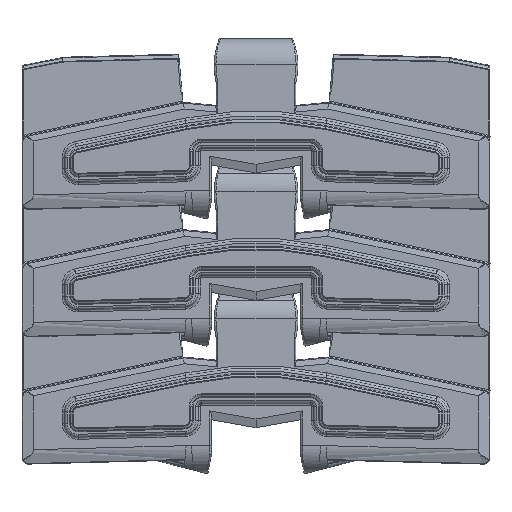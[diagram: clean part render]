
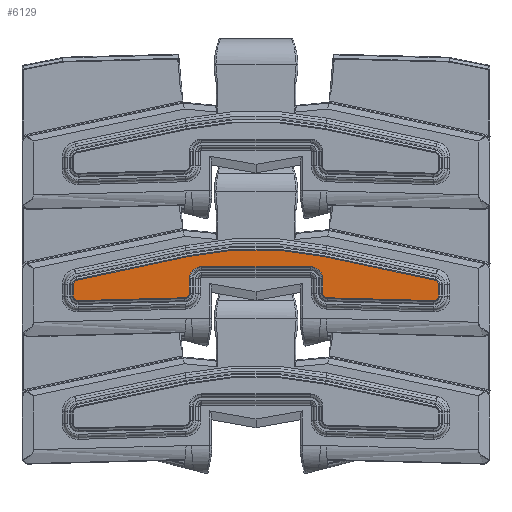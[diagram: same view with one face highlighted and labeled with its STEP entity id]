
A CAD part, top view. The second image highlights one B-rep face of the part: STEP entity #6129.
In plain terms, the highlighted planar face has unit normal (0, 0, 1).
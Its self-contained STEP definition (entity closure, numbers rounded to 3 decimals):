
#6129=ADVANCED_FACE('',(#17127),#17128,.T.);
#7945=EDGE_CURVE('',#20003,#20004,#20005,.T.);
#8293=EDGE_CURVE('',#19239,#20508,#20509,.F.);
#8407=EDGE_CURVE('',#20677,#20678,#20679,.F.);
#8681=EDGE_CURVE('',#21069,#21070,#21071,.T.);
#9091=EDGE_CURVE('',#21636,#20677,#21637,.T.);
#9209=EDGE_CURVE('',#21799,#21800,#21801,.F.);
#9369=EDGE_CURVE('',#21070,#21636,#22014,.F.);
#9533=EDGE_CURVE('',#21708,#19690,#22235,.T.);
#9671=EDGE_CURVE('',#20004,#21708,#22418,.F.);
#10061=EDGE_CURVE('',#22929,#21069,#22930,.F.);
#10915=EDGE_CURVE('',#20508,#24012,#24013,.F.);
#12671=EDGE_CURVE('',#20678,#21799,#26138,.T.);
#12741=EDGE_CURVE('',#21800,#19239,#26215,.F.);
#12891=EDGE_CURVE('',#22725,#19047,#26393,.F.);
#13909=EDGE_CURVE('',#24012,#20003,#27594,.F.);
#14251=EDGE_CURVE('',#27993,#22725,#27994,.T.);
#14333=EDGE_CURVE('',#19690,#27993,#28085,.T.);
#14817=EDGE_CURVE('',#19047,#22929,#28644,.T.);
#17127=FACE_OUTER_BOUND('',#34534,.T.);
#17128=PLANE('',#34535);
#19047=VERTEX_POINT('',#40332);
#19239=VERTEX_POINT('',#40828);
#19690=VERTEX_POINT('',#42352);
#20003=VERTEX_POINT('',#43655);
#20004=VERTEX_POINT('',#43656);
#20005=CIRCLE('',#43657,1.366);
#20508=VERTEX_POINT('',#45718);
#20509=LINE('',#45719,#45720);
#20677=VERTEX_POINT('',#46389);
#20678=VERTEX_POINT('',#46390);
#20679=LINE('',#46391,#46392);
#21069=VERTEX_POINT('',#47902);
#21070=VERTEX_POINT('',#47903);
#21071=CIRCLE('',#47904,1.366);
#21636=VERTEX_POINT('',#49843);
#21637=CIRCLE('',#49844,1.366);
#21708=VERTEX_POINT('',#50100);
#21799=VERTEX_POINT('',#50457);
#21800=VERTEX_POINT('',#50458);
#21801=LINE('',#50459,#50460);
#22014=LINE('',#51235,#51236);
#22235=CIRCLE('',#51957,1.366);
#22418=LINE('',#52708,#52709);
#22725=VERTEX_POINT('',#54413);
#22929=VERTEX_POINT('',#55171);
#22930=LINE('',#55172,#55173);
#24012=VERTEX_POINT('',#59143);
#24013=CIRCLE('',#59144,3.634);
#26138=CIRCLE('',#67962,1.366);
#26215=CIRCLE('',#68254,3.634);
#26393=LINE('',#69000,#69001);
#27594=LINE('',#73955,#73956);
#27993=VERTEX_POINT('',#75527);
#27994=CIRCLE('',#75528,1.366);
#28085=LINE('',#75875,#75876);
#28644=CIRCLE('',#78424,98.866);
#34534=EDGE_LOOP('',(#82230,#82231,#82232,#82233,#82234,#82235,#82236,#82237,#82238,#82239,#82240,#82241,#82242,#82243,#82244,#82245,#82246,#82247));
#34535=AXIS2_PLACEMENT_3D('',#82248,#82249,#82250);
#40332=CARTESIAN_POINT('',(20.543,19.13,11.3));
#40828=CARTESIAN_POINT('',(-16.303,16.175,11.3));
#42352=CARTESIAN_POINT('',(54.616,7.356,11.3));
#43655=CARTESIAN_POINT('',(19.937,8.192,11.3));
#43656=CARTESIAN_POINT('',(21.268,6.827,11.3));
#43657=AXIS2_PLACEMENT_3D('',#84514,#84515,#84516);
#45718=CARTESIAN_POINT('',(16.303,16.175,11.3));
#45719=CARTESIAN_POINT('',(0.,16.175,11.3));
#45720=VECTOR('',#84916,1.0);
#46389=CARTESIAN_POINT('',(-53.214,5.99,11.3));
#46390=CARTESIAN_POINT('',(-21.268,6.827,11.3));
#46391=CARTESIAN_POINT('',(0.,7.384,11.3));
#46392=VECTOR('',#85033,1.0);
#47902=CARTESIAN_POINT('',(-53.534,12.122,11.3));
#47903=CARTESIAN_POINT('',(-54.616,10.786,11.3));
#47904=AXIS2_PLACEMENT_3D('',#85315,#85316,#85317);
#49843=CARTESIAN_POINT('',(-54.616,7.356,11.3));
#49844=AXIS2_PLACEMENT_3D('',#85849,#85850,#85851);
#50100=CARTESIAN_POINT('',(53.214,5.99,11.3));
#50457=CARTESIAN_POINT('',(-19.937,8.192,11.3));
#50458=CARTESIAN_POINT('',(-19.937,12.541,11.3));
#50459=CARTESIAN_POINT('',(-19.937,13.639,11.3));
#50460=VECTOR('',#85983,1.0);
#51235=CARTESIAN_POINT('',(-54.616,13.639,11.3));
#51236=VECTOR('',#86191,1.0);
#51957=AXIS2_PLACEMENT_3D('',#86451,#86452,#86453);
#52708=CARTESIAN_POINT('',(0.,7.384,11.3));
#52709=VECTOR('',#86628,1.0);
#54413=CARTESIAN_POINT('',(53.534,12.122,11.3));
#55171=CARTESIAN_POINT('',(-20.543,19.13,11.3));
#55172=CARTESIAN_POINT('',(-35.874,15.874,11.3));
#55173=VECTOR('',#87183,1.0);
#59143=CARTESIAN_POINT('',(19.937,12.541,11.3));
#59144=AXIS2_PLACEMENT_3D('',#88341,#88342,#88343);
#67962=AXIS2_PLACEMENT_3D('',#90544,#90545,#90546);
#68254=AXIS2_PLACEMENT_3D('',#90589,#90590,#90591);
#69000=CARTESIAN_POINT('',(35.874,15.874,11.3));
#69001=VECTOR('',#90794,1.0);
#73955=CARTESIAN_POINT('',(19.937,13.639,11.3));
#73956=VECTOR('',#92080,1.0);
#75527=CARTESIAN_POINT('',(54.616,10.786,11.3));
#75528=AXIS2_PLACEMENT_3D('',#92543,#92544,#92545);
#75875=CARTESIAN_POINT('',(54.616,13.639,11.3));
#75876=VECTOR('',#92631,1.0);
#78424=AXIS2_PLACEMENT_3D('',#93276,#93277,#93278);
#82230=ORIENTED_EDGE('',*,*,#8407,.T.);
#82231=ORIENTED_EDGE('',*,*,#12671,.T.);
#82232=ORIENTED_EDGE('',*,*,#9209,.T.);
#82233=ORIENTED_EDGE('',*,*,#12741,.T.);
#82234=ORIENTED_EDGE('',*,*,#8293,.T.);
#82235=ORIENTED_EDGE('',*,*,#10915,.T.);
#82236=ORIENTED_EDGE('',*,*,#13909,.T.);
#82237=ORIENTED_EDGE('',*,*,#7945,.T.);
#82238=ORIENTED_EDGE('',*,*,#9671,.T.);
#82239=ORIENTED_EDGE('',*,*,#9533,.T.);
#82240=ORIENTED_EDGE('',*,*,#14333,.T.);
#82241=ORIENTED_EDGE('',*,*,#14251,.T.);
#82242=ORIENTED_EDGE('',*,*,#12891,.T.);
#82243=ORIENTED_EDGE('',*,*,#14817,.T.);
#82244=ORIENTED_EDGE('',*,*,#10061,.T.);
#82245=ORIENTED_EDGE('',*,*,#8681,.T.);
#82246=ORIENTED_EDGE('',*,*,#9369,.T.);
#82247=ORIENTED_EDGE('',*,*,#9091,.T.);
#82248=CARTESIAN_POINT('',(0.,38.1,11.3));
#82249=DIRECTION('',(0.,0.,1.));
#82250=DIRECTION('',(1.,0.,0.));
#84514=CARTESIAN_POINT('',(21.303,8.192,11.3));
#84515=DIRECTION('',(0.,0.,1.));
#84516=DIRECTION('',(1.0,0.,0.));
#84916=DIRECTION('',(-1.0,0.,0.));
#85033=DIRECTION('',(-1.,-0.026,0.));
#85315=CARTESIAN_POINT('',(-53.25,10.786,11.3));
#85316=DIRECTION('',(0.,0.,1.));
#85317=DIRECTION('',(1.0,0.,0.));
#85849=CARTESIAN_POINT('',(-53.25,7.356,11.3));
#85850=DIRECTION('',(0.,0.,1.));
#85851=DIRECTION('',(1.0,0.,0.));
#85983=DIRECTION('',(0.,-1.,0.));
#86191=DIRECTION('',(0.,1.,0.));
#86451=CARTESIAN_POINT('',(53.25,7.356,11.3));
#86452=DIRECTION('',(0.,0.,1.));
#86453=DIRECTION('',(1.0,0.,0.));
#86628=DIRECTION('',(-1.,0.026,0.));
#87183=DIRECTION('',(0.978,0.208,0.));
#88341=CARTESIAN_POINT('',(16.303,12.541,11.3));
#88342=DIRECTION('',(0.,0.,1.));
#88343=DIRECTION('',(1.0,0.,0.));
#90544=CARTESIAN_POINT('',(-21.303,8.192,11.3));
#90545=DIRECTION('',(0.,0.,1.));
#90546=DIRECTION('',(1.0,0.,0.));
#90589=CARTESIAN_POINT('',(-16.303,12.541,11.3));
#90590=DIRECTION('',(0.,0.,1.));
#90591=DIRECTION('',(1.0,0.,0.));
#90794=DIRECTION('',(0.978,-0.208,0.));
#92080=DIRECTION('',(0.,1.,0.));
#92543=CARTESIAN_POINT('',(53.25,10.786,11.3));
#92544=DIRECTION('',(0.,0.,1.));
#92545=DIRECTION('',(1.0,0.,0.));
#92631=DIRECTION('',(0.,1.,0.));
#93276=CARTESIAN_POINT('',(0.,-77.578,11.3));
#93277=DIRECTION('',(0.,0.,1.));
#93278=DIRECTION('',(1.0,0.,0.));
